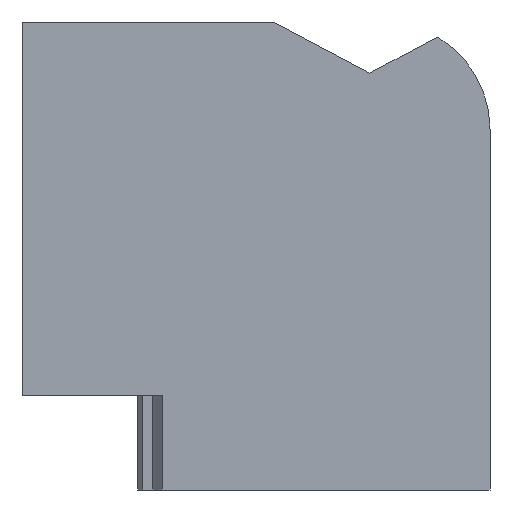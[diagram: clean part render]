
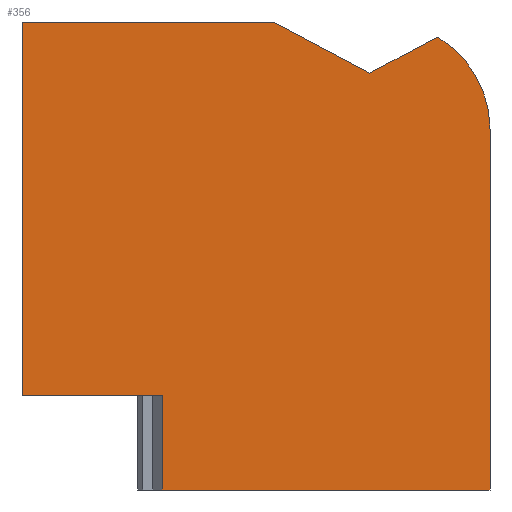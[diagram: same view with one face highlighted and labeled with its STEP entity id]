
A CAD part, left-side view. The second image highlights one B-rep face of the part: STEP entity #356.
In plain terms, the highlighted planar face has unit normal (-1, 0, 0).
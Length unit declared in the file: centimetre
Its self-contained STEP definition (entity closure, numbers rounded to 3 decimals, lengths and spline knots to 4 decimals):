
#13 = EDGE_CURVE ( 'NONE', #359, #995, #367, .T. ) ;
#21 = DIRECTION ( 'NONE',  ( 0., 0., -1. ) ) ;
#28 = VERTEX_POINT ( 'NONE', #610 ) ;
#48 = DIRECTION ( 'NONE',  ( 1., 0., 0. ) ) ;
#52 = EDGE_CURVE ( 'NONE', #673, #658, #849, .T. ) ;
#60 = CARTESIAN_POINT ( 'NONE',  ( 0., 700.5362, 202.8912 ) ) ;
#70 = CARTESIAN_POINT ( 'NONE',  ( 0., 1000., 0. ) ) ;
#76 = ORIENTED_EDGE ( 'NONE', *, *, #215, .F. ) ;
#88 = DIRECTION ( 'NONE',  ( 0., -0.883, 0.469 ) ) ;
#90 = ORIENTED_EDGE ( 'NONE', *, *, #421, .T. ) ;
#111 = ORIENTED_EDGE ( 'NONE', *, *, #1005, .F. ) ;
#125 = CARTESIAN_POINT ( 'NONE',  ( 0., 1000., 202.8912 ) ) ;
#159 = LINE ( 'NONE', #70, #897 ) ;
#168 = CARTESIAN_POINT ( 'NONE',  ( 0., 0., 771.1472 ) ) ;
#215 = EDGE_CURVE ( 'NONE', #28, #611, #1010, .T. ) ;
#222 = AXIS2_PLACEMENT_3D ( 'NONE', #1058, #980, #389 ) ;
#233 = ORIENTED_EDGE ( 'NONE', *, *, #13, .T. ) ;
#239 = LINE ( 'NONE', #60, #286 ) ;
#257 = CARTESIAN_POINT ( 'NONE',  ( 0., 0., 1000. ) ) ;
#271 = VECTOR ( 'NONE', #436, 100. ) ;
#286 = VECTOR ( 'NONE', #726, 100. ) ;
#294 = CARTESIAN_POINT ( 'NONE',  ( 0., 462.8377, 1000. ) ) ;
#300 = VERTEX_POINT ( 'NONE', #294 ) ;
#307 = LINE ( 'NONE', #900, #391 ) ;
#322 = DIRECTION ( 'NONE',  ( 0., 0., -1. ) ) ;
#356 = ADVANCED_FACE ( 'NONE', ( #797 ), #383, .F. ) ;
#359 = VERTEX_POINT ( 'NONE', #792 ) ;
#367 = LINE ( 'NONE', #944, #734 ) ;
#383 = PLANE ( 'NONE',  #852 ) ;
#389 = DIRECTION ( 'NONE',  ( 0., 0., -1. ) ) ;
#391 = VECTOR ( 'NONE', #322, 100. ) ;
#421 = EDGE_CURVE ( 'NONE', #673, #611, #1082, .T. ) ;
#436 = DIRECTION ( 'NONE',  ( 0., 0., -1. ) ) ;
#458 = CARTESIAN_POINT ( 'NONE',  ( 0., 1000., 1000. ) ) ;
#519 = EDGE_CURVE ( 'NONE', #985, #922, #307, .T. ) ;
#553 = EDGE_CURVE ( 'NONE', #300, #28, #986, .T. ) ;
#580 = VECTOR ( 'NONE', #999, 100. ) ;
#590 = DIRECTION ( 'NONE',  ( 0., -0.883, -0.469 ) ) ;
#600 = CARTESIAN_POINT ( 'NONE',  ( 0., 257.1671, 890.8608 ) ) ;
#610 = CARTESIAN_POINT ( 'NONE',  ( 0., 257.1671, 890.8608 ) ) ;
#611 = VERTEX_POINT ( 'NONE', #743 ) ;
#625 = ORIENTED_EDGE ( 'NONE', *, *, #1054, .T. ) ;
#643 = ORIENTED_EDGE ( 'NONE', *, *, #702, .F. ) ;
#658 = VERTEX_POINT ( 'NONE', #842 ) ;
#670 = LINE ( 'NONE', #915, #580 ) ;
#673 = VERTEX_POINT ( 'NONE', #168 ) ;
#702 = EDGE_CURVE ( 'NONE', #985, #300, #670, .T. ) ;
#707 = ORIENTED_EDGE ( 'NONE', *, *, #553, .F. ) ;
#726 = DIRECTION ( 'NONE',  ( 0., 1., 0. ) ) ;
#734 = VECTOR ( 'NONE', #21, 100. ) ;
#737 = DIRECTION ( 'NONE',  ( 0., -1., 0. ) ) ;
#743 = CARTESIAN_POINT ( 'NONE',  ( 0., 111.9779, 967.9056 ) ) ;
#744 = VECTOR ( 'NONE', #88, 100. ) ;
#792 = CARTESIAN_POINT ( 'NONE',  ( 0., 700.5362, 202.8912 ) ) ;
#797 = FACE_OUTER_BOUND ( 'NONE', #1007, .T. ) ;
#835 = ORIENTED_EDGE ( 'NONE', *, *, #52, .F. ) ;
#842 = CARTESIAN_POINT ( 'NONE',  ( 0., 0., 0. ) ) ;
#849 = LINE ( 'NONE', #257, #271 ) ;
#852 = AXIS2_PLACEMENT_3D ( 'NONE', #458, #48, #1051 ) ;
#896 = VECTOR ( 'NONE', #590, 100. ) ;
#897 = VECTOR ( 'NONE', #737, 100. ) ;
#900 = CARTESIAN_POINT ( 'NONE',  ( 0., 1000., 1000. ) ) ;
#915 = CARTESIAN_POINT ( 'NONE',  ( 0., 1000., 1000. ) ) ;
#922 = VERTEX_POINT ( 'NONE', #125 ) ;
#934 = CARTESIAN_POINT ( 'NONE',  ( 0., 51.4966, 1000. ) ) ;
#944 = CARTESIAN_POINT ( 'NONE',  ( 0., 700.5362, 202.8912 ) ) ;
#953 = ORIENTED_EDGE ( 'NONE', *, *, #519, .T. ) ;
#980 = DIRECTION ( 'NONE',  ( -1., 0., 0. ) ) ;
#985 = VERTEX_POINT ( 'NONE', #1059 ) ;
#986 = LINE ( 'NONE', #600, #896 ) ;
#995 = VERTEX_POINT ( 'NONE', #1066 ) ;
#999 = DIRECTION ( 'NONE',  ( 0., -1., 0. ) ) ;
#1005 = EDGE_CURVE ( 'NONE', #359, #922, #239, .T. ) ;
#1007 = EDGE_LOOP ( 'NONE', ( #111, #233, #625, #835, #90, #76, #707, #643, #953 ) ) ;
#1010 = LINE ( 'NONE', #934, #744 ) ;
#1051 = DIRECTION ( 'NONE',  ( 0., 0., -1. ) ) ;
#1054 = EDGE_CURVE ( 'NONE', #995, #658, #159, .T. ) ;
#1058 = CARTESIAN_POINT ( 'NONE',  ( 0., 228.8528, 771.1472 ) ) ;
#1059 = CARTESIAN_POINT ( 'NONE',  ( 0., 1000., 1000. ) ) ;
#1066 = CARTESIAN_POINT ( 'NONE',  ( 0., 700.5362, 0. ) ) ;
#1082 = CIRCLE ( 'NONE', #222, 228.8528 ) ;
